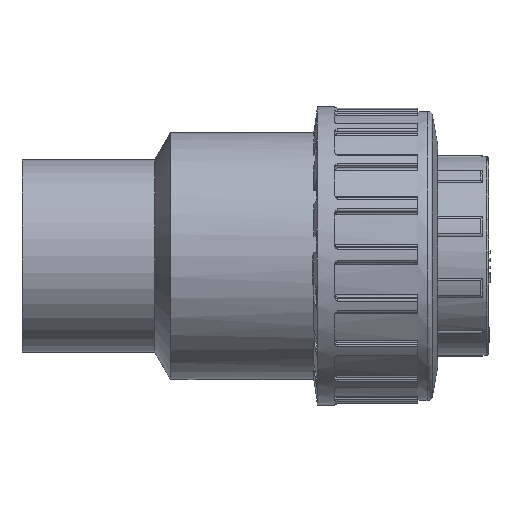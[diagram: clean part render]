
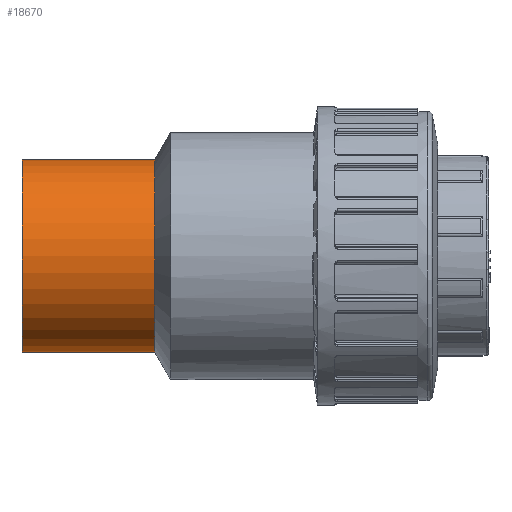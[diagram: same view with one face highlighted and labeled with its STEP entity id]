
A CAD part, top view. The second image highlights one B-rep face of the part: STEP entity #18670.
In plain terms, the highlighted cylindrical face has radius 21 mm (diameter 42 mm), a full revolution.
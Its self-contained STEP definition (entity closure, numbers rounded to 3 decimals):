
#380=FACE_BOUND('',#3150,.T.);
#1052=CIRCLE('',#19971,21.);
#1053=CIRCLE('',#19972,21.);
#1788=CYLINDRICAL_SURFACE('',#19970,21.);
#2040=FACE_OUTER_BOUND('',#3149,.T.);
#3149=EDGE_LOOP('',(#12708));
#3150=EDGE_LOOP('',(#12709));
#7841=VERTEX_POINT('',#27656);
#7842=VERTEX_POINT('',#27658);
#9780=EDGE_CURVE('',#7841,#7841,#1052,.T.);
#9781=EDGE_CURVE('',#7842,#7842,#1053,.T.);
#12708=ORIENTED_EDGE('',*,*,#9780,.F.);
#12709=ORIENTED_EDGE('',*,*,#9781,.T.);
#18670=ADVANCED_FACE('',(#2040,#380),#1788,.T.);
#19970=AXIS2_PLACEMENT_3D('',#27655,#21779,#21780);
#19971=AXIS2_PLACEMENT_3D('',#27657,#21781,#21782);
#19972=AXIS2_PLACEMENT_3D('',#27659,#21783,#21784);
#21779=DIRECTION('center_axis',(1.,0.,0.));
#21780=DIRECTION('ref_axis',(0.,1.,0.));
#21781=DIRECTION('center_axis',(1.,0.,0.));
#21782=DIRECTION('ref_axis',(0.,0.,-1.));
#21783=DIRECTION('center_axis',(1.,0.,0.));
#21784=DIRECTION('ref_axis',(0.,0.,-1.));
#27655=CARTESIAN_POINT('Origin',(-83.772,0.,0.));
#27656=CARTESIAN_POINT('',(-69.272,21.,0.));
#27657=CARTESIAN_POINT('Origin',(-69.272,0.,0.));
#27658=CARTESIAN_POINT('',(-98.272,21.,0.));
#27659=CARTESIAN_POINT('Origin',(-98.272,0.,0.));
